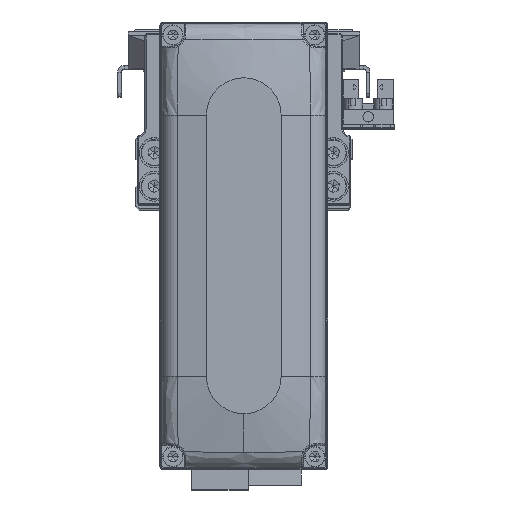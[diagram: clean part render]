
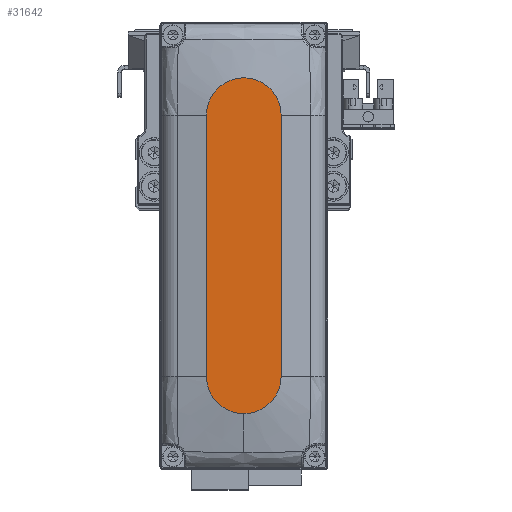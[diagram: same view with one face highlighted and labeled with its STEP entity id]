
A CAD part, top view. The second image highlights one B-rep face of the part: STEP entity #31642.
In plain terms, the highlighted planar face has unit normal (0, 0, 1).
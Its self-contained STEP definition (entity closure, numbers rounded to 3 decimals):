
#2367 = DIRECTION ( 'NONE',  ( 1., 0., 0. ) ) ;
#2719 = DIRECTION ( 'NONE',  ( 1., 0., 0. ) ) ;
#2988 = CARTESIAN_POINT ( 'NONE',  ( -35., -10., 28. ) ) ;
#3725 = CIRCLE ( 'NONE', #26824, 10. ) ;
#5852 = PLANE ( 'NONE',  #8088 ) ;
#6823 = DIRECTION ( 'NONE',  ( 0., 0., 1. ) ) ;
#7110 = ORIENTED_EDGE ( 'NONE', *, *, #39609, .T. ) ;
#7288 = VERTEX_POINT ( 'NONE', #29583 ) ;
#7954 = CARTESIAN_POINT ( 'NONE',  ( 35., 0., 28. ) ) ;
#8088 = AXIS2_PLACEMENT_3D ( 'NONE', #18432, #31026, #2719 ) ;
#9240 = CARTESIAN_POINT ( 'NONE',  ( -35., -10., 28. ) ) ;
#12110 = VECTOR ( 'NONE', #21833, 1000. ) ;
#12116 = DIRECTION ( 'NONE',  ( -1., 0., 0. ) ) ;
#13660 = CARTESIAN_POINT ( 'NONE',  ( -35., 10., 28. ) ) ;
#15054 = CIRCLE ( 'NONE', #38136, 10. ) ;
#15151 = EDGE_CURVE ( 'NONE', #7288, #34236, #27810, .T. ) ;
#15784 = ORIENTED_EDGE ( 'NONE', *, *, #29790, .T. ) ;
#16627 = CIRCLE ( 'NONE', #39727, 10. ) ;
#17376 = VERTEX_POINT ( 'NONE', #29954 ) ;
#18066 = CARTESIAN_POINT ( 'NONE',  ( -35., 0., 28. ) ) ;
#18432 = CARTESIAN_POINT ( 'NONE',  ( 0., 0., 28. ) ) ;
#19422 = DIRECTION ( 'NONE',  ( 1., 0., 0. ) ) ;
#20552 = DIRECTION ( 'NONE',  ( 0., 0., 1. ) ) ;
#21833 = DIRECTION ( 'NONE',  ( 1., 0., 0. ) ) ;
#21955 = ORIENTED_EDGE ( 'NONE', *, *, #15151, .T. ) ;
#24501 = CARTESIAN_POINT ( 'NONE',  ( 35., -10., 28. ) ) ;
#26824 = AXIS2_PLACEMENT_3D ( 'NONE', #7954, #20552, #33151 ) ;
#27810 = LINE ( 'NONE', #40404, #28065 ) ;
#28065 = VECTOR ( 'NONE', #12116, 1000. ) ;
#29583 = CARTESIAN_POINT ( 'NONE',  ( 35., 10., 28. ) ) ;
#29730 = ORIENTED_EDGE ( 'NONE', *, *, #32481, .T. ) ;
#29790 = EDGE_CURVE ( 'NONE', #34236, #31269, #16627, .T. ) ;
#29954 = CARTESIAN_POINT ( 'NONE',  ( 45., 0., 28. ) ) ;
#30670 = DIRECTION ( 'NONE',  ( 0., 0., 1. ) ) ;
#31026 = DIRECTION ( 'NONE',  ( 0., 0., 1. ) ) ;
#31269 = VERTEX_POINT ( 'NONE', #2988 ) ;
#31642 = ADVANCED_FACE ( 'NONE', ( #34147 ), #5852, .T. ) ;
#32481 = EDGE_CURVE ( 'NONE', #31269, #40406, #37540, .T. ) ;
#33151 = DIRECTION ( 'NONE',  ( 1., 0., 0. ) ) ;
#34147 = FACE_OUTER_BOUND ( 'NONE', #37209, .T. ) ;
#34236 = VERTEX_POINT ( 'NONE', #13660 ) ;
#35124 = CARTESIAN_POINT ( 'NONE',  ( 35., 0., 28. ) ) ;
#36441 = EDGE_CURVE ( 'NONE', #17376, #7288, #3725, .T. ) ;
#37209 = EDGE_LOOP ( 'NONE', ( #21955, #15784, #29730, #7110, #39247 ) ) ;
#37540 = LINE ( 'NONE', #9240, #12110 ) ;
#38136 = AXIS2_PLACEMENT_3D ( 'NONE', #35124, #6823, #19422 ) ;
#39247 = ORIENTED_EDGE ( 'NONE', *, *, #36441, .T. ) ;
#39609 = EDGE_CURVE ( 'NONE', #40406, #17376, #15054, .T. ) ;
#39727 = AXIS2_PLACEMENT_3D ( 'NONE', #18066, #30670, #2367 ) ;
#40404 = CARTESIAN_POINT ( 'NONE',  ( -35., 10., 28. ) ) ;
#40406 = VERTEX_POINT ( 'NONE', #24501 ) ;
